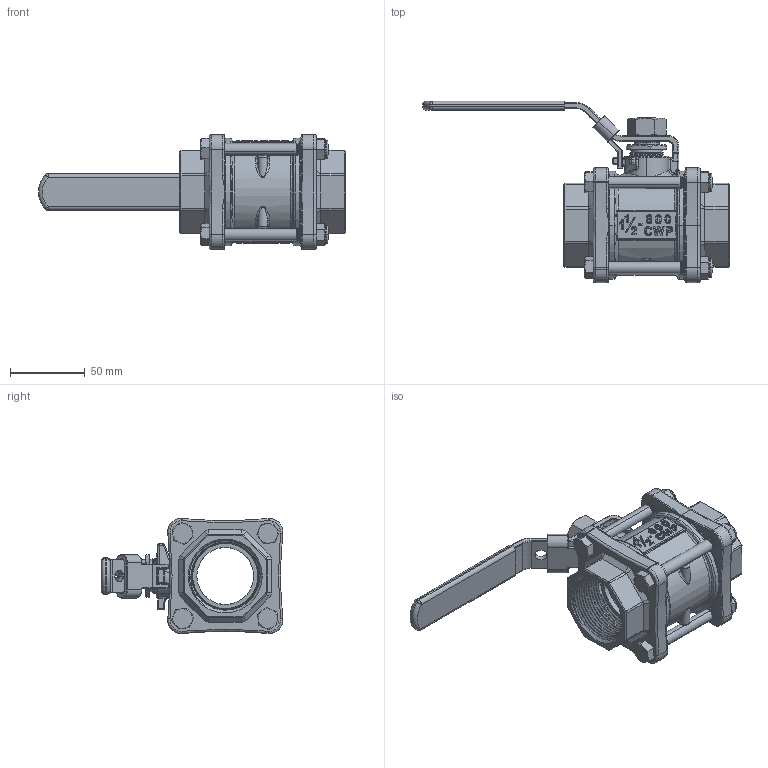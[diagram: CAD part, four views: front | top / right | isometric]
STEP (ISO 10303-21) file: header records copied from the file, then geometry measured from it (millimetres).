
FILE_DESCRIPTION (( 'STEP AP203' ), '1' );
FILE_NAME ('T-40.STEP', '2025-02-27T05:16:33', ( 'user' ), ( '' ), 'SwSTEP 2.0', 'SolidWorks 2012', '' );
FILE_SCHEMA (( 'CONFIG_CONTROL_DESIGN' ));
Products named in the file (17): T-40; 掛鎖; 15-HANDLE NUT; 14-HANDLE COVER; 13-HANDLE; 12-CAP BOLT; 11-CAP NUT; 10-GLAND; 9-BODY SEAL; 8-GLAND PACKING; 7-O-RING; 6-THRUST WASHER; 5-SEAT; 4-STEM; 3-BALL; 2-CAP; 1-BODY
Assembly tree (26 placements, depth 2):
  T-40
    1-BODY
    2-CAP  x2
    3-BALL
    4-STEM
    5-SEAT  x2
    6-THRUST WASHER
    7-O-RING  x2
    8-GLAND PACKING
    9-BODY SEAL  x2
    10-GLAND
    11-CAP NUT  x4
    12-CAP BOLT  x4
    13-HANDLE
    14-HANDLE COVER
    15-HANDLE NUT
    掛鎖
Bounding box: 204.9 x 121.18 x 76.8 mm (x, y, z)
Volume: 296227.6 mm3; surface area: 146318.4 mm2
Topology: 26 solids, 26 shells, 1747 faces, 4366 edges, 2653 vertices
Faces by surface type: cylinder 547, bspline 396, plane 365, cone 244, torus 141, sphere 54
Entity records: 90197 total; most frequent: CARTESIAN_POINT 62113, ORIENTED_EDGE 5974, DIRECTION 4766, EDGE_CURVE 2987, AXIS2_PLACEMENT_3D 1954, VERTEX_POINT 1820, EDGE_LOOP 1309, FACE_OUTER_BOUND 1235
